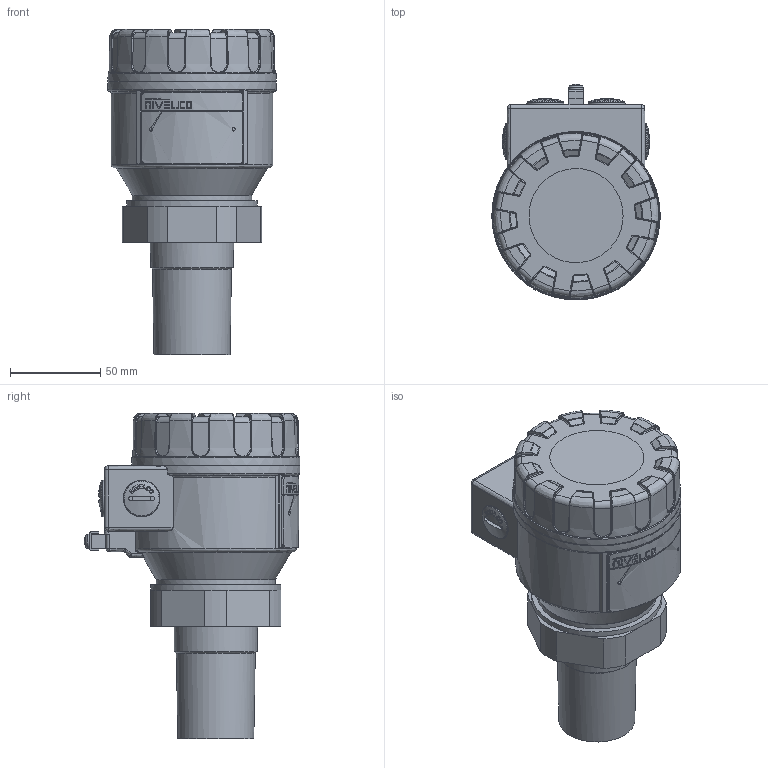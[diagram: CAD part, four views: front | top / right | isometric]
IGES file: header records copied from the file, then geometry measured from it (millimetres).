
Global section: file name: SI_390_Műház,2; native system: 2HAutodesk Inventor 2015; preprocessor: unknown; author: aantal; date: 20150306.113139; units: millimetre
Bounding box: 92.97 x 119.25 x 179.6 mm (x, y, z)
Volume: 888178.1 mm3; surface area: 98072.5 mm2
Topology: 11 solids, 11 shells, 1254 faces, 3129 edges, 1932 vertices
Faces by surface type: bspline 1254
